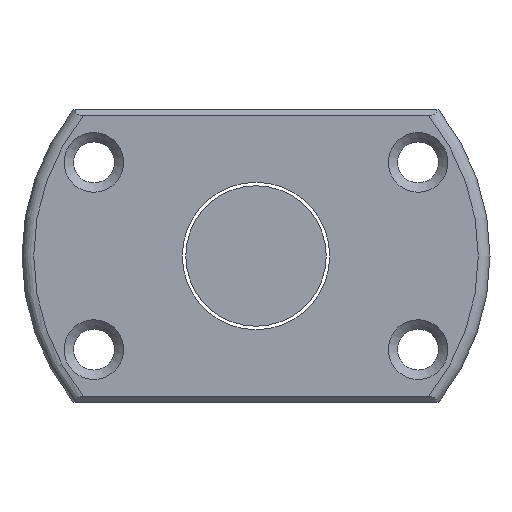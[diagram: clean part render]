
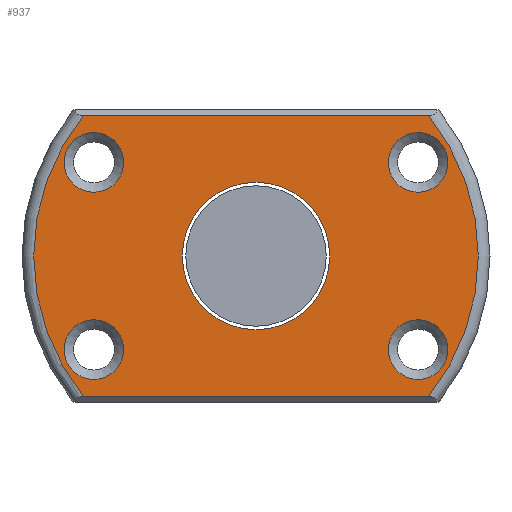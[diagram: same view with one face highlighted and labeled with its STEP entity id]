
A CAD part, left-side view. The second image highlights one B-rep face of the part: STEP entity #937.
In plain terms, the highlighted planar face has unit normal (-1, 0, 0).
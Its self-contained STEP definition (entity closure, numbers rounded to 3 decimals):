
#6 = EDGE_CURVE ( 'NONE', #312, #312, #577, .T. ) ;
#11 = ORIENTED_EDGE ( 'NONE', *, *, #692, .T. ) ;
#42 = EDGE_CURVE ( 'NONE', #967, #1048, #717, .T. ) ;
#48 = AXIS2_PLACEMENT_3D ( 'NONE', #719, #207, #137 ) ;
#57 = DIRECTION ( 'NONE',  ( 0., 0., 1. ) ) ;
#66 = AXIS2_PLACEMENT_3D ( 'NONE', #899, #407, #400 ) ;
#80 = CIRCLE ( 'NONE', #830, 2.55 ) ;
#121 = AXIS2_PLACEMENT_3D ( 'NONE', #549, #464, #57 ) ;
#137 = DIRECTION ( 'NONE',  ( 0., 0., 1. ) ) ;
#140 = FACE_BOUND ( 'NONE', #652, .T. ) ;
#141 = DIRECTION ( 'NONE',  ( 0., 0., 1. ) ) ;
#171 = CARTESIAN_POINT ( 'NONE',  ( -28., 14.731, -12. ) ) ;
#180 = DIRECTION ( 'NONE',  ( -1., 0., 0. ) ) ;
#194 = EDGE_LOOP ( 'NONE', ( #789, #11, #912, #974 ) ) ;
#198 = CIRCLE ( 'NONE', #66, 6.3 ) ;
#200 = DIRECTION ( 'NONE',  ( 0., 0., 1. ) ) ;
#204 = ORIENTED_EDGE ( 'NONE', *, *, #1018, .T. ) ;
#207 = DIRECTION ( 'NONE',  ( -1., 0., 0. ) ) ;
#211 = VERTEX_POINT ( 'NONE', #443 ) ;
#219 = FACE_BOUND ( 'NONE', #446, .T. ) ;
#228 = ORIENTED_EDGE ( 'NONE', *, *, #653, .T. ) ;
#240 = EDGE_CURVE ( 'NONE', #329, #329, #198, .T. ) ;
#249 = DIRECTION ( 'NONE',  ( 0., -1., 0. ) ) ;
#272 = CARTESIAN_POINT ( 'NONE',  ( -28., -13.856, -5.45 ) ) ;
#299 = CIRCLE ( 'NONE', #857, 2.55 ) ;
#312 = VERTEX_POINT ( 'NONE', #574 ) ;
#329 = VERTEX_POINT ( 'NONE', #516 ) ;
#345 = CIRCLE ( 'NONE', #623, 19. ) ;
#358 = VERTEX_POINT ( 'NONE', #1008 ) ;
#360 = CARTESIAN_POINT ( 'NONE',  ( -28., -14.731, -12. ) ) ;
#400 = DIRECTION ( 'NONE',  ( 0., 0., -1. ) ) ;
#403 = EDGE_LOOP ( 'NONE', ( #204 ) ) ;
#407 = DIRECTION ( 'NONE',  ( 1., 0., 0. ) ) ;
#413 = VECTOR ( 'NONE', #585, 1000. ) ;
#434 = CARTESIAN_POINT ( 'NONE',  ( -28., 13.856, 8. ) ) ;
#439 = LINE ( 'NONE', #763, #413 ) ;
#443 = CARTESIAN_POINT ( 'NONE',  ( -28., 13.856, -5.45 ) ) ;
#446 = EDGE_LOOP ( 'NONE', ( #658 ) ) ;
#450 = VECTOR ( 'NONE', #249, 1000. ) ;
#464 = DIRECTION ( 'NONE',  ( -1., 0., 0. ) ) ;
#469 = DIRECTION ( 'NONE',  ( 1., 0., 0. ) ) ;
#503 = ORIENTED_EDGE ( 'NONE', *, *, #565, .T. ) ;
#506 = DIRECTION ( 'NONE',  ( 1., 0., 0. ) ) ;
#516 = CARTESIAN_POINT ( 'NONE',  ( -28., 0., -6.3 ) ) ;
#549 = CARTESIAN_POINT ( 'NONE',  ( -28., 20., 0. ) ) ;
#561 = LINE ( 'NONE', #567, #450 ) ;
#565 = EDGE_CURVE ( 'NONE', #211, #211, #80, .T. ) ;
#567 = CARTESIAN_POINT ( 'NONE',  ( -28., -14.309, -12. ) ) ;
#574 = CARTESIAN_POINT ( 'NONE',  ( -28., 13.856, 10.55 ) ) ;
#577 = CIRCLE ( 'NONE', #766, 2.55 ) ;
#585 = DIRECTION ( 'NONE',  ( 0., 1., 0. ) ) ;
#616 = EDGE_LOOP ( 'NONE', ( #228 ) ) ;
#623 = AXIS2_PLACEMENT_3D ( 'NONE', #908, #180, #834 ) ;
#627 = FACE_BOUND ( 'NONE', #616, .T. ) ;
#652 = EDGE_LOOP ( 'NONE', ( #1007 ) ) ;
#653 = EDGE_CURVE ( 'NONE', #358, #358, #813, .T. ) ;
#658 = ORIENTED_EDGE ( 'NONE', *, *, #240, .T. ) ;
#668 = DIRECTION ( 'NONE',  ( 0., 0., 1. ) ) ;
#688 = FACE_BOUND ( 'NONE', #1034, .T. ) ;
#692 = EDGE_CURVE ( 'NONE', #1048, #932, #561, .T. ) ;
#717 = CIRCLE ( 'NONE', #48, 19. ) ;
#719 = CARTESIAN_POINT ( 'NONE',  ( -28., 0., 0. ) ) ;
#763 = CARTESIAN_POINT ( 'NONE',  ( -28., 14.309, 12. ) ) ;
#766 = AXIS2_PLACEMENT_3D ( 'NONE', #434, #836, #200 ) ;
#770 = FACE_OUTER_BOUND ( 'NONE', #194, .T. ) ;
#789 = ORIENTED_EDGE ( 'NONE', *, *, #42, .T. ) ;
#792 = DIRECTION ( 'NONE',  ( 0., 0., 1. ) ) ;
#813 = CIRCLE ( 'NONE', #949, 2.55 ) ;
#826 = CARTESIAN_POINT ( 'NONE',  ( -28., -13.856, -8. ) ) ;
#830 = AXIS2_PLACEMENT_3D ( 'NONE', #855, #469, #792 ) ;
#833 = CARTESIAN_POINT ( 'NONE',  ( -28., 14.731, 12. ) ) ;
#834 = DIRECTION ( 'NONE',  ( 0., 0., 1. ) ) ;
#836 = DIRECTION ( 'NONE',  ( 1., 0., 0. ) ) ;
#855 = CARTESIAN_POINT ( 'NONE',  ( -28., 13.856, -8. ) ) ;
#857 = AXIS2_PLACEMENT_3D ( 'NONE', #826, #506, #668 ) ;
#862 = EDGE_CURVE ( 'NONE', #932, #947, #345, .T. ) ;
#871 = FACE_BOUND ( 'NONE', #403, .T. ) ;
#872 = DIRECTION ( 'NONE',  ( 1., 0., 0. ) ) ;
#899 = CARTESIAN_POINT ( 'NONE',  ( -28., 0., 0. ) ) ;
#908 = CARTESIAN_POINT ( 'NONE',  ( -28., 0., 0. ) ) ;
#912 = ORIENTED_EDGE ( 'NONE', *, *, #862, .T. ) ;
#916 = EDGE_CURVE ( 'NONE', #947, #967, #439, .T. ) ;
#932 = VERTEX_POINT ( 'NONE', #360 ) ;
#934 = VERTEX_POINT ( 'NONE', #272 ) ;
#937 = ADVANCED_FACE ( 'NONE', ( #770, #688, #871, #627, #140, #219 ), #948, .T. ) ;
#939 = CARTESIAN_POINT ( 'NONE',  ( -28., -13.856, 8. ) ) ;
#947 = VERTEX_POINT ( 'NONE', #1028 ) ;
#948 = PLANE ( 'NONE',  #121 ) ;
#949 = AXIS2_PLACEMENT_3D ( 'NONE', #939, #872, #141 ) ;
#967 = VERTEX_POINT ( 'NONE', #833 ) ;
#974 = ORIENTED_EDGE ( 'NONE', *, *, #916, .T. ) ;
#1007 = ORIENTED_EDGE ( 'NONE', *, *, #6, .T. ) ;
#1008 = CARTESIAN_POINT ( 'NONE',  ( -28., -13.856, 10.55 ) ) ;
#1018 = EDGE_CURVE ( 'NONE', #934, #934, #299, .T. ) ;
#1028 = CARTESIAN_POINT ( 'NONE',  ( -28., -14.731, 12. ) ) ;
#1034 = EDGE_LOOP ( 'NONE', ( #503 ) ) ;
#1048 = VERTEX_POINT ( 'NONE', #171 ) ;
